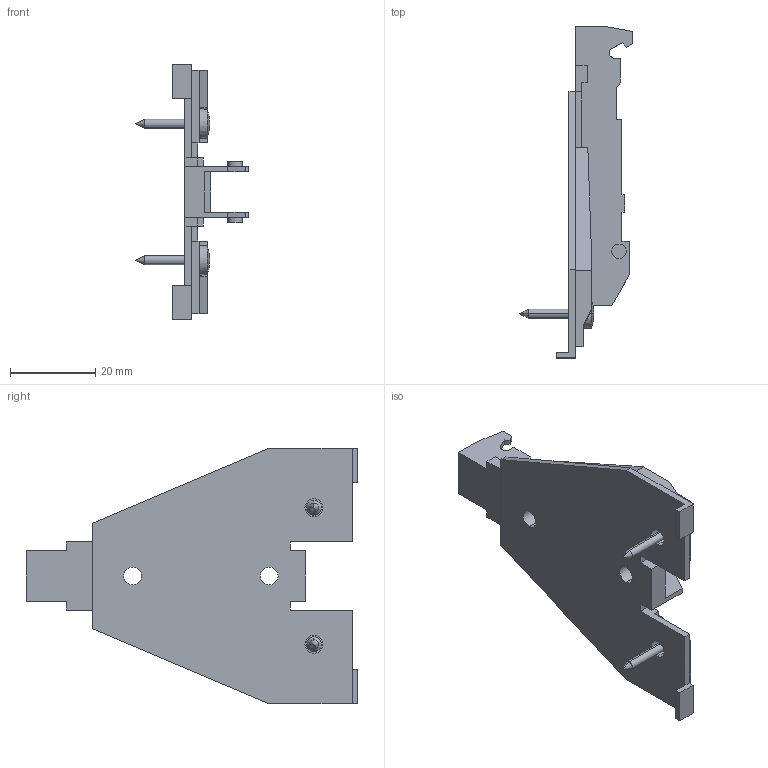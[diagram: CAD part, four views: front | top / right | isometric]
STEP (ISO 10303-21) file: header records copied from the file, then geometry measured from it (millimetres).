
FILE_DESCRIPTION (( 'STEP AP214' ), '1' );
FILE_NAME ('1D Deltamontageplatte Spax_vormontiert_H4,5.step', '2010-11-18T09:42:16', ( 'grass' ), ( '' ), 'SwSTEP 2.0', 'SolidWorks 2010', '' );
FILE_SCHEMA (( 'AUTOMOTIVE_DESIGN' ));
Length unit declared in the file: millimetre
Products named in the file (1): 1D Deltamontageplatte Spax_vormontiert_H4,5
Bounding box: 26.7 x 77.75 x 60 mm (x, y, z)
Volume: 12814.8 mm3; surface area: 10043.7 mm2
Topology: 1 solids, 1 shells, 148 faces, 408 edges, 266 vertices
Faces by surface type: plane 110, cylinder 22, cone 12, sphere 4
Entity records: 4670 total; most frequent: CARTESIAN_POINT 825, ORIENTED_EDGE 808, DIRECTION 760, EDGE_CURVE 404, LINE 342, VECTOR 342, VERTEX_POINT 266, AXIS2_PLACEMENT_3D 209
